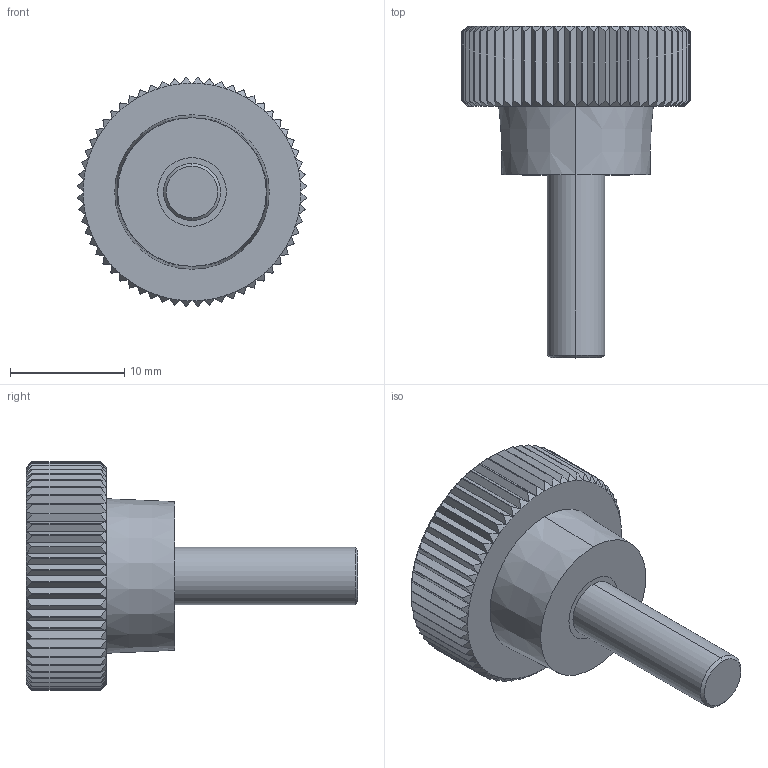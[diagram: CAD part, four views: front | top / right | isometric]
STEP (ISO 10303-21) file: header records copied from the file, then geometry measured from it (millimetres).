
FILE_DESCRIPTION (( 'STEP AP203' ), '1' );
FILE_NAME ('wn4662_20-m5x16.step', '2007-02-15T10:21:59', ( 'Magnus Fahlstrom' ), ( '' ), 'SwSTEP 2.0', 'SolidWorks 2007', '' );
FILE_SCHEMA (( 'CONFIG_CONTROL_DESIGN' ));
Length unit declared in the file: millimetre
Products named in the file (1): wn4662_20-m5x16
Bounding box: 19.98 x 29 x 19.98 mm (x, y, z)
Volume: 3165.1 mm3; surface area: 1957.3 mm2
Topology: 3 solids, 3 shells, 321 faces, 694 edges, 382 vertices
Faces by surface type: plane 129, cone 126, cylinder 66
Entity records: 8787 total; most frequent: CARTESIAN_POINT 2118, ORIENTED_EDGE 1388, DIRECTION 1360, EDGE_CURVE 694, AXIS2_PLACEMENT_3D 584, VERTEX_POINT 382, EDGE_LOOP 324, ADVANCED_FACE 321
